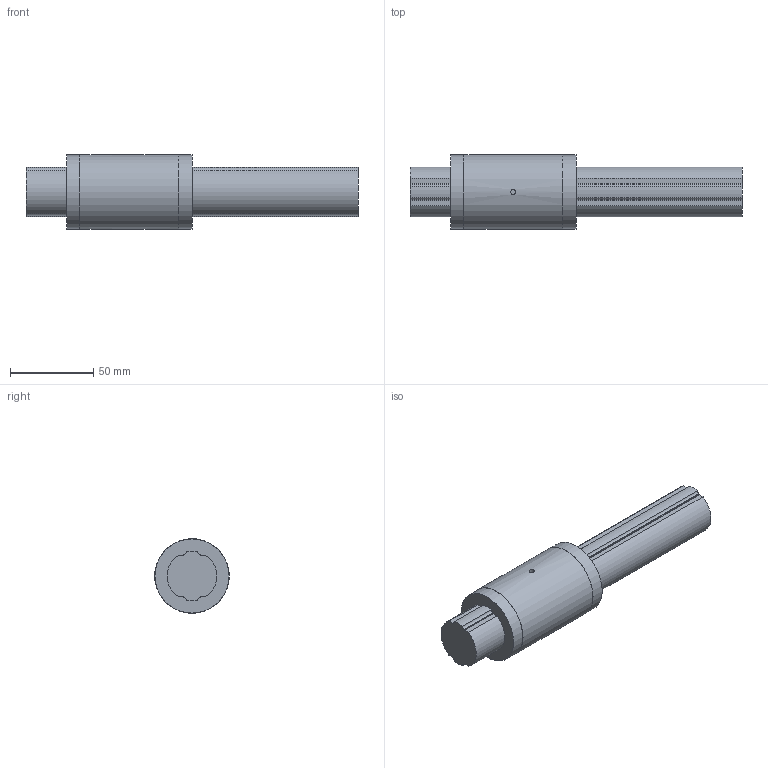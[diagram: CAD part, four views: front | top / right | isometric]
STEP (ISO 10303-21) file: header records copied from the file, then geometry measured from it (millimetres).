
FILE_DESCRIPTION(/* description */ ('STEP AP214'),/* implementation_level */ '2;1');
FILE_NAME(/* name */ 'LT30X+200L(00)',/* time_stamp */ '2024-09-05T14:17:03+02:00',/* author */ ('License CC BY-ND 4.0'),/* organization */ ('CADENAS'),/* preprocessor_version */ 'ST-DEVELOPER v19.3',/* originating_system */ 'PARTsolutions',/* authorisation */ ' ');
FILE_SCHEMA (('AUTOMOTIVE_DESIGN {1 0 10303 214 3 1 1}'));
Length unit declared in the file: millimetre
Products named in the file (3): LT30X+200L(00); 1LT30X 200Shaft; 1LT30X Cylindar
Assembly tree (2 placements, depth 2):
  LT30X+200L(00)
    1LT30X 200Shaft
    1LT30X Cylindar
Bounding box: 200 x 45 x 45 mm (x, y, z)
Volume: 204979.6 mm3; surface area: 40866.3 mm2
Topology: 2 solids, 2 shells, 64 faces, 173 edges, 115 vertices
Faces by surface type: cylinder 39, plane 25
Full cylindrical faces by diameter (mm): 3 x2, 44.6 x2, 45 x1
Entity records: 2129 total; most frequent: CARTESIAN_POINT 399, DIRECTION 366, ORIENTED_EDGE 332, EDGE_CURVE 166, AXIS2_PLACEMENT_3D 139, VERTEX_POINT 114, LINE 88, VECTOR 88
